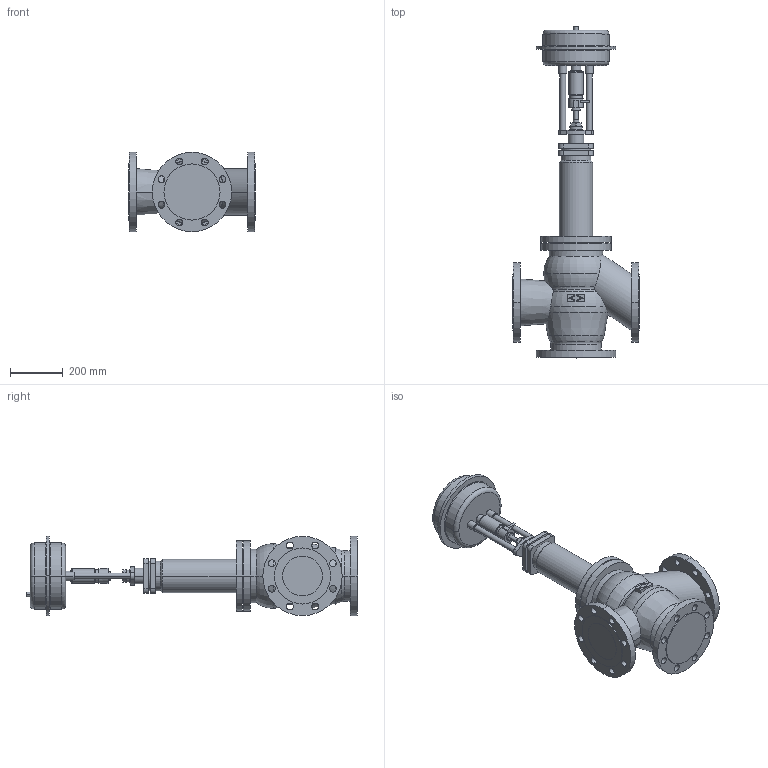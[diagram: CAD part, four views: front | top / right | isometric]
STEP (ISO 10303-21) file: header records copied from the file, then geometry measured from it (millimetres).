
FILE_DESCRIPTION(('OneSpaceDesigner STEP Export'),'2;1');
FILE_NAME('c000000761.stp','2006-09-21T 8:48:23',(''),(''),'OneSpace Designer STEP processor for AP214 (Solid Model)','OneSpace Designer 13.20A 18-Aug-2005 (C) CoCreate Software GmbH','');
FILE_SCHEMA(('AUTOMOTIVE_DESIGN { 1 0 10303 214 1 1 1 1 }'));
Length unit declared in the file: millimetre
Products named in the file (2): 1; 2
Bounding box: 480 x 1255.8 x 300 mm (x, y, z)
Volume: 40947772.2 mm3; surface area: 1477279 mm2
Topology: 2 solids, 2 shells, 270 faces, 663 edges, 432 vertices
Faces by surface type: cylinder 130, plane 98, torus 32, cone 10
Entity records: 7308 total; most frequent: CARTESIAN_POINT 1413, ORIENTED_EDGE 1326, DIRECTION 1072, EDGE_CURVE 663, VERTEX_POINT 432, AXIS2_PLACEMENT_3D 395, EDGE_LOOP 353, VECTOR 282
